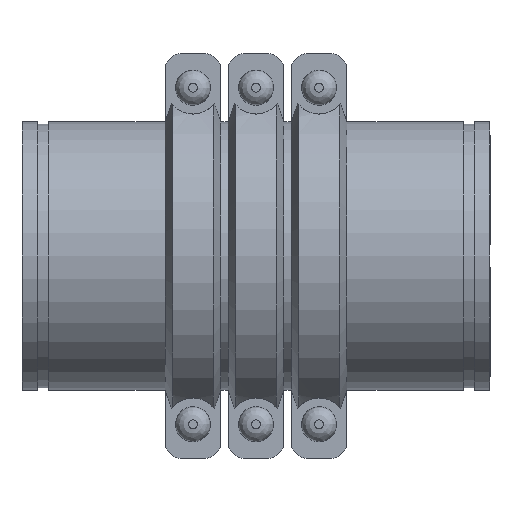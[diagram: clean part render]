
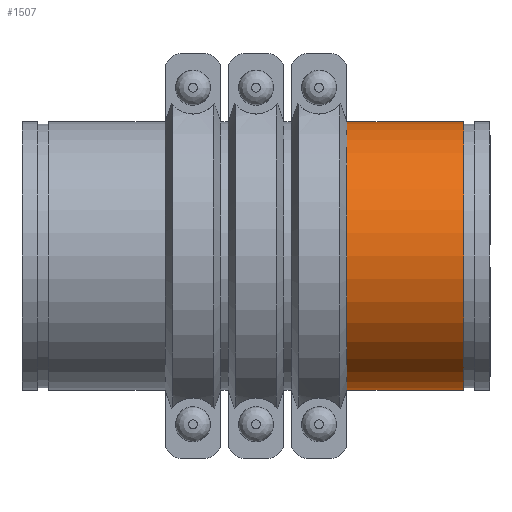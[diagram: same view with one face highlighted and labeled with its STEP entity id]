
A CAD part, front view. The second image highlights one B-rep face of the part: STEP entity #1507.
In plain terms, the highlighted cylindrical face has radius 161.925 mm (diameter 323.85 mm), a full revolution.
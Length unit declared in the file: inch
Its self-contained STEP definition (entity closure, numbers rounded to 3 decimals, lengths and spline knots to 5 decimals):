
#79=LINE('',#2401,#168);
#168=VECTOR('',#1942,6.375);
#257=CYLINDRICAL_SURFACE('',#1718,6.375);
#318=FACE_OUTER_BOUND('',#407,.T.);
#407=EDGE_LOOP('',(#988,#989,#990,#991,#992,#993));
#521=CIRCLE('',#1716,6.375);
#522=CIRCLE('',#1717,6.375);
#523=CIRCLE('',#1719,6.375);
#524=CIRCLE('',#1720,6.375);
#617=VERTEX_POINT('',#2392);
#618=VERTEX_POINT('',#2393);
#619=VERTEX_POINT('',#2397);
#620=VERTEX_POINT('',#2398);
#766=EDGE_CURVE('',#617,#618,#521,.T.);
#767=EDGE_CURVE('',#618,#617,#522,.T.);
#768=EDGE_CURVE('',#619,#620,#523,.T.);
#769=EDGE_CURVE('',#620,#619,#524,.T.);
#770=EDGE_CURVE('',#620,#618,#79,.T.);
#988=ORIENTED_EDGE('',*,*,#768,.F.);
#989=ORIENTED_EDGE('',*,*,#769,.F.);
#990=ORIENTED_EDGE('',*,*,#770,.T.);
#991=ORIENTED_EDGE('',*,*,#767,.T.);
#992=ORIENTED_EDGE('',*,*,#766,.T.);
#993=ORIENTED_EDGE('',*,*,#770,.F.);
#1507=ADVANCED_FACE('',(#318),#257,.T.);
#1716=AXIS2_PLACEMENT_3D('',#2394,#1932,#1933);
#1717=AXIS2_PLACEMENT_3D('',#2395,#1934,#1935);
#1718=AXIS2_PLACEMENT_3D('',#2396,#1936,#1937);
#1719=AXIS2_PLACEMENT_3D('',#2399,#1938,#1939);
#1720=AXIS2_PLACEMENT_3D('',#2400,#1940,#1941);
#1932=DIRECTION('center_axis',(-1.,0.,0.));
#1933=DIRECTION('ref_axis',(0.,0.,1.));
#1934=DIRECTION('center_axis',(-1.,0.,0.));
#1935=DIRECTION('ref_axis',(0.,0.,1.));
#1936=DIRECTION('center_axis',(-1.,0.,0.));
#1937=DIRECTION('ref_axis',(0.,1.,0.));
#1938=DIRECTION('center_axis',(-1.,0.,0.));
#1939=DIRECTION('ref_axis',(0.,0.,1.));
#1940=DIRECTION('center_axis',(-1.,0.,0.));
#1941=DIRECTION('ref_axis',(0.,0.,1.));
#1942=DIRECTION('',(1.,0.,0.));
#2392=CARTESIAN_POINT('',(2.78,6.375,0.));
#2393=CARTESIAN_POINT('',(2.78,-6.375,0.));
#2394=CARTESIAN_POINT('Origin',(2.78,0.,0.));
#2395=CARTESIAN_POINT('Origin',(2.78,0.,0.));
#2396=CARTESIAN_POINT('Origin',(0.,0.,
0.));
#2397=CARTESIAN_POINT('',(-2.78,6.375,0.));
#2398=CARTESIAN_POINT('',(-2.78,-6.375,0.));
#2399=CARTESIAN_POINT('Origin',(-2.78,0.,0.));
#2400=CARTESIAN_POINT('Origin',(-2.78,0.,0.));
#2401=CARTESIAN_POINT('',(0.,-6.375,0.));
